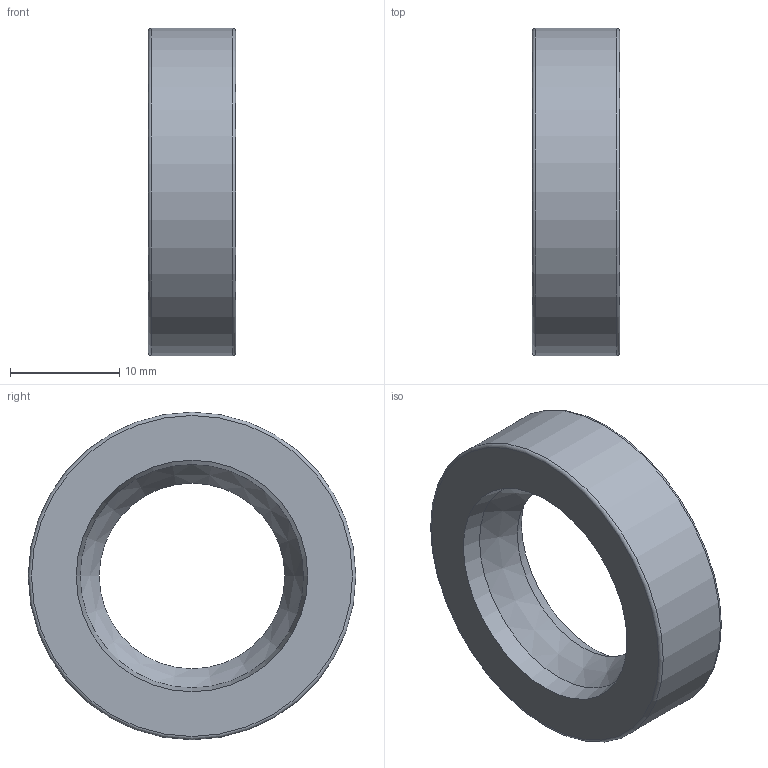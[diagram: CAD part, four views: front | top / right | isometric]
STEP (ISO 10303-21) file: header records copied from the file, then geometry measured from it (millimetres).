
FILE_DESCRIPTION(/* description */ ('오일-실'),/* implementation_level */ '2;1');
FILE_NAME(/* name */ '',/* time_stamp */ '2026-05-29T16:26:28+09:00',/* author */ ('jhkim'),/* organization */ (''),/* preprocessor_version */ 'ST-DEVELOPER v20.1',/* originating_system */ 'Autodesk Inventor 2027',/* authorisation */ '');
FILE_SCHEMA (('AUTOMOTIVE_DESIGN { 1 0 10303 214 3 1 1 }'));
Length unit declared in the file: millimetre
Products named in the file (1): 오일 실 17 30 8
Bounding box: 8 x 30 x 30 mm (x, y, z)
Volume: 1818.6 mm3; surface area: 2801 mm2
Topology: 1 solids, 1 shells, 15 faces, 31 edges, 20 vertices
Faces by surface type: torus 4, plane 4, cone 4, cylinder 3
Full cylindrical faces by diameter (mm): 21.2 x1, 27.5 x1, 30 x1
Entity records: 460 total; most frequent: DIRECTION 87, CARTESIAN_POINT 67, ORIENTED_EDGE 62, AXIS2_PLACEMENT_3D 40, EDGE_CURVE 31, CIRCLE 24, VERTEX_POINT 20, EDGE_LOOP 19
